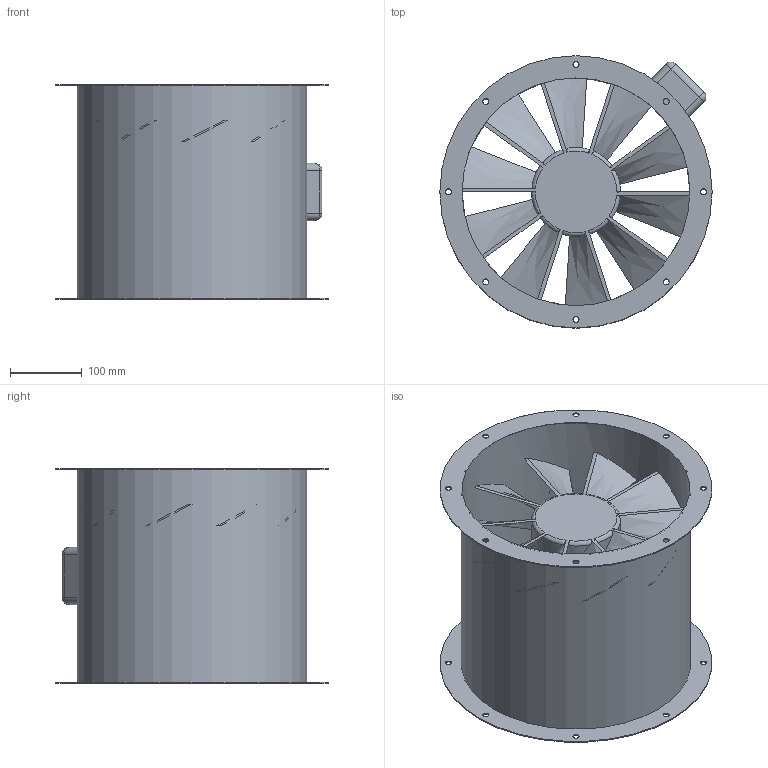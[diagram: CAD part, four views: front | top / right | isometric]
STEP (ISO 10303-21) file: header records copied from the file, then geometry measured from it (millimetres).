
FILE_DESCRIPTION(/* description */ (''),/* implementation_level */ '2;1');
FILE_NAME(/* name */ 'Z:\Output\HRFW_315-4_EX-00439-023.stp',/* time_stamp */ '2017-09-25T10:25:34+02:00',/* author */ ('vijayparmar'),/* organization */ (''),/* preprocessor_version */ 'ST-DEVELOPER v16.5',/* originating_system */ 'Autodesk Inventor 2017',/* authorisation */ '');
FILE_SCHEMA (('AUTOMOTIVE_DESIGN { 1 0 10303 214 3 1 1 }'));
Length unit declared in the file: millimetre
Products named in the file (1): HRF
Bounding box: 380 x 380 x 300 mm (x, y, z)
Volume: 3058025.3 mm3; surface area: 989227.1 mm2
Topology: 1 solids, 1 shells, 137 faces, 433 edges, 294 vertices
Faces by surface type: plane 59, cylinder 42, bspline 20, torus 11, sphere 4, cone 1
Full cylindrical faces by diameter (mm): 8.5 x16, 30 x1, 124 x1, 318 x1, 321 x1, 380 x2
Entity records: 5418 total; most frequent: CARTESIAN_POINT 1650, ORIENTED_EDGE 790, DIRECTION 700, EDGE_CURVE 395, AXIS2_PLACEMENT_3D 287, VERTEX_POINT 281, EDGE_LOOP 210, FACE_OUTER_BOUND 137
